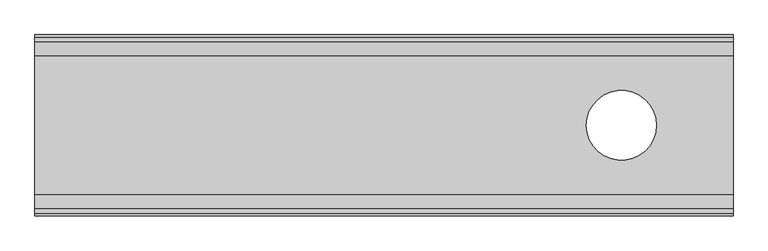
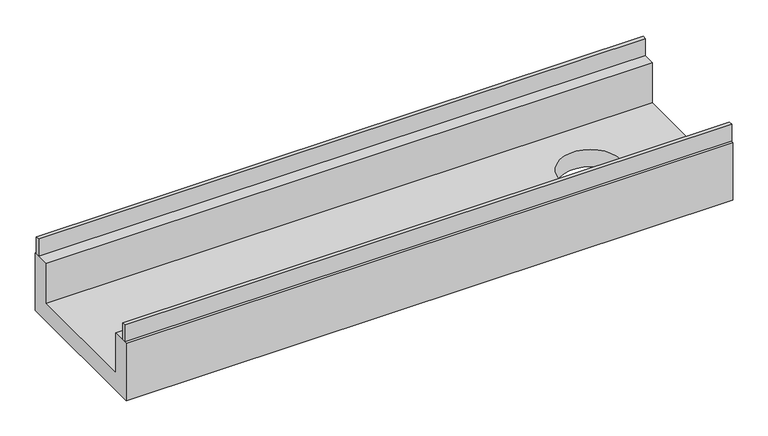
"""IFC4 building model written with IfcOpenShell, lengths in millimetres: sanitary terminal geometry, PF_ST_Slabdrain_H200K & H200KS_channels_USA_ACO : H200K-13 Constant Depth Channel with GS edge rail."""

import ifcopenshell
import ifcopenshell.guid

model = None  # the IFC model being written
_history = None  # IfcOwnerHistory: only IFC2X3 demands one
_inside = {}  # id of a spatial element -> (the spatial element, [elements in it])
_under = {}  # id of a project, library or spatial element -> (it, [spatial elements below it])
_declared = {}  # id of a project -> (the project, [libraries it declares])
_typed = {}  # id of a type object -> (the type object, [elements of that type])
_made_of = {}  # id of a material, layer set ... -> (it, [elements and type objects made of it])


def new_model(schema):
    """Start an empty IFC model of exactly this schema.

    Asked for "IFC4X3", IfcOpenShell would pick the latest addendum, in which some entities
    have other attributes; the version numbers below select the first issue.
    IFC2X3 requires an IfcOwnerHistory on every rooted entity: one is made here for all.
    """
    global model, _history
    if schema == "IFC4X3":
        model = ifcopenshell.file(schema_version=(4, 3, 0, 0))
    else:
        model = ifcopenshell.file(schema=schema)
    _inside.clear()
    _under.clear()
    _declared.clear()
    _typed.clear()
    _made_of.clear()
    _history = None
    if model.schema == "IFC2X3":
        org = make("IfcOrganization", Name="unknown")
        user = make(
            "IfcPersonAndOrganization",
            ThePerson=make("IfcPerson", FamilyName="unknown"),
            TheOrganization=org,
        )
        app = make(
            "IfcApplication",
            ApplicationDeveloper=org,
            Version="unknown",
            ApplicationFullName="unknown",
            ApplicationIdentifier="unknown",
        )
        _history = make(
            "IfcOwnerHistory",
            OwningUser=user,
            OwningApplication=app,
            ChangeAction="ADDED",
            CreationDate=0,
        )
    return model


def make(cls, **values):
    """One entity of the class cls with the attributes given. An attribute that is None is left unset."""
    return model.create_entity(
        cls, **{name: value for name, value in values.items() if value is not None}
    )


def rooted(cls, **values):
    """An entity with a GlobalId (a new one), such as an element, a storey or a relation."""
    return make(cls, GlobalId=ifcopenshell.guid.new(), OwnerHistory=_history, **values)


def si_unit(unit_type, name, prefix=None):
    """IfcSIUnit, for example si_unit("LENGTHUNIT", "METRE", prefix="MILLI")."""
    return make("IfcSIUnit", UnitType=unit_type, Prefix=prefix, Name=name)


def assignment(units):
    """IfcUnitAssignment: the units of a project."""
    return None if units is None else make("IfcUnitAssignment", Units=units)


def point(xyz):
    """IfcCartesianPoint."""
    return None if xyz is None else make("IfcCartesianPoint", Coordinates=xyz)


def direction(xyz):
    """IfcDirection."""
    return None if xyz is None else make("IfcDirection", DirectionRatios=xyz)


def frame(location, z_axis=None, x_axis=None):
    """IfcAxis2Placement3D, a coordinate frame: its origin and axes. An axis left out is left unset."""
    return make(
        "IfcAxis2Placement3D",
        Location=point(location),
        Axis=direction(z_axis),
        RefDirection=direction(x_axis),
    )


def origin():
    """The frame at (0, 0, 0) with its axes left unset."""
    return frame((0.0, 0.0, 0.0))


def place(relative_to, where):
    """IfcLocalPlacement: puts the frame where relative to a parent placement (None: the world)."""
    return make(
        "IfcLocalPlacement", PlacementRelTo=relative_to, RelativePlacement=where
    )


def context(
    kind, dimensions, precision=None, world=None, true_north=None, identifier=None
):
    """IfcGeometricRepresentationContext, for example the 3D "Model" context."""
    return make(
        "IfcGeometricRepresentationContext",
        ContextIdentifier=identifier,
        ContextType=kind,
        CoordinateSpaceDimension=dimensions,
        Precision=precision,
        WorldCoordinateSystem=world,
        TrueNorth=true_north,
    )


def project(units=None, contexts=None):
    """IfcProject with its units and contexts."""
    return rooted(
        "IfcProject",
        Name="project",
        RepresentationContexts=contexts,
        UnitsInContext=assignment(units),
    )


def spatial(cls, under=None, at=None, **own):
    """A site, building, storey or space (cls), placed at a placement, below another one or the project."""
    s = rooted(cls, ObjectPlacement=at, **own)
    if under is not None:
        _under.setdefault(under.id(), (under, []))[1].append(s)
    return s


def polyline(points):
    """IfcPolyline through the points."""
    return make("IfcPolyline", Points=[point(p) for p in points])


def circle_curve(where, radius):
    """IfcCircle in the frame where."""
    return make("IfcCircle", Position=where, Radius=radius)


def outline(outer, holes=None, kind="AREA"):
    """IfcArbitraryClosedProfileDef: a profile drawn as a closed curve; with holes, ...WithVoids."""
    if holes is None:
        return make("IfcArbitraryClosedProfileDef", ProfileType=kind, OuterCurve=outer)
    return make(
        "IfcArbitraryProfileDefWithVoids",
        ProfileType=kind,
        OuterCurve=outer,
        InnerCurves=holes,
    )


def extrude(swept, where, along, depth):
    """IfcExtrudedAreaSolid: the profile swept, set in the frame where, extruded along a direction by depth."""
    return make(
        "IfcExtrudedAreaSolid",
        SweptArea=swept,
        Position=where,
        ExtrudedDirection=direction(along),
        Depth=depth,
    )


def shape(context_of_items, identifier, shape_type, items):
    """IfcShapeRepresentation: the items that make up one representation, for example the "Body"."""
    return make(
        "IfcShapeRepresentation",
        ContextOfItems=context_of_items,
        RepresentationIdentifier=identifier,
        RepresentationType=shape_type,
        Items=items,
    )


def source(mapping_origin, context_of_items, identifier, shape_type, items):
    """IfcRepresentationMap: a shape defined once, which mapped items show again and again."""
    return make(
        "IfcRepresentationMap",
        MappingOrigin=mapping_origin,
        MappedRepresentation=shape(context_of_items, identifier, shape_type, items),
    )


def transform(
    local_origin,
    x_axis=None,
    y_axis=None,
    z_axis=None,
    scale=None,
    scale2=None,
    scale3=None,
    uniform=True,
):
    """IfcCartesianTransformationOperator3D, or its non-uniform kind. x_axis, y_axis, z_axis: its Axis1, 2, 3."""
    if uniform:
        return make(
            "IfcCartesianTransformationOperator3D",
            Axis1=direction(x_axis),
            Axis2=direction(y_axis),
            LocalOrigin=point(local_origin),
            Scale=scale,
            Axis3=direction(z_axis),
        )
    return make(
        "IfcCartesianTransformationOperator3DnonUniform",
        Axis1=direction(x_axis),
        Axis2=direction(y_axis),
        LocalOrigin=point(local_origin),
        Scale=scale,
        Axis3=direction(z_axis),
        Scale2=scale2,
        Scale3=scale3,
    )


def mapped(mapping_source, mapping_target):
    """IfcMappedItem: shows the shape of a source again, moved by a transform."""
    return make(
        "IfcMappedItem", MappingSource=mapping_source, MappingTarget=mapping_target
    )


def made_of(thing, what):
    """Note that an element or type object is made of a material, layer set ...; save() writes the relation."""
    if what is not None:
        _made_of.setdefault(what.id(), (what, []))[1].append(thing)
    return thing


def element(
    cls,
    number,
    at=None,
    inside=None,
    cuts=None,
    type_object=None,
    material=None,
    context=None,
    identifier="Body",
    shape_type=None,
    held_by="IfcProductDefinitionShape",
    body=None,
    shapes=None,
    **own,
):
    """One element of the class cls, such as IfcWall. Its Tag is "e" and its number.

    at: its placement. inside: the storey or other place that contains it. cuts: it is an
    opening in that element (IfcRelVoidsElement). A single representation is given by context,
    identifier, shape_type and body (its items); several are given by shapes. held_by: the class
    of the entity that holds the representations. save() writes the other relations.
    """
    e = rooted(cls, Tag="e%d" % number, ObjectPlacement=at, **own)
    if body is not None:
        shapes = [shape(context, identifier, shape_type, body)]
    if shapes is not None:
        e.Representation = make(held_by, Representations=shapes)
    if inside is not None:
        _inside.setdefault(inside.id(), (inside, []))[1].append(e)
    if cuts is not None:
        rooted(
            "IfcRelVoidsElement", RelatingBuildingElement=cuts, RelatedOpeningElement=e
        )
    if type_object is not None:
        _typed.setdefault(type_object.id(), (type_object, []))[1].append(e)
    return made_of(e, material)


def aggregate(whole, parts):
    """IfcRelAggregates: a whole, such as a stair, and the parts it consists of."""
    return rooted("IfcRelAggregates", RelatingObject=whole, RelatedObjects=parts)


def save(model, path):
    """Write the relations noted so far, then the file.

    IfcRelAggregates (storeys below a building ...), IfcRelContainedInSpatialStructure (elements
    in a storey), IfcRelDefinesByType, IfcRelAssociatesMaterial and IfcRelDeclares: one each for
    every whole, place, type object, material and project.
    """
    for whole, parts in _under.values():
        aggregate(whole, parts)
    for where, things in _inside.values():
        rooted(
            "IfcRelContainedInSpatialStructure",
            RelatedElements=things,
            RelatingStructure=where,
        )
    for kind, things in _typed.values():
        rooted("IfcRelDefinesByType", RelatedObjects=things, RelatingType=kind)
    for what, things in _made_of.values():
        rooted("IfcRelAssociatesMaterial", RelatedObjects=things, RelatingMaterial=what)
    for by, libraries in _declared.values():
        rooted("IfcRelDeclares", RelatingContext=by, RelatedDefinitions=libraries)
    model.write(path)


def plane_surface(at):
    """IfcPlane: the flat surface through the origin of the frame at, square to its z axis."""
    return make("IfcPlane", Position=at)


def revolved_surface(curve, axis_point, axis_direction):
    """IfcSurfaceOfRevolution: the curve turned about the line through axis_point along axis_direction."""
    return make(
        "IfcSurfaceOfRevolution",
        SweptCurve=make("IfcArbitraryOpenProfileDef", ProfileType="CURVE", Curve=curve),
        AxisPosition=make("IfcAxis1Placement", Location=point(axis_point), Axis=direction(axis_direction)),
    )


def advanced_brep(points, edges, surfaces, faces):
    """IfcAdvancedBrep: a solid bounded by faces that lie on surfaces and meet in shared edges.

    An edge is (start, end): straight between two places in points (the first is 0);
    or (start, end, curve); or (start, end, curve, False) where it runs against its curve.
    A face is (place in surfaces, loops), or (place, loops, False) where it looks against
    its surface's normal. A loop lists edges by number (the first is 1), with a minus sign
    where the edge is run from its end to its start. The first loop is the outer one.
    """
    corners = [point(p) for p in points]
    vertices = [make("IfcVertexPoint", VertexGeometry=c) for c in corners]
    made = []
    for start, end, *more in edges:
        made.append(
            make(
                "IfcEdgeCurve",
                EdgeStart=vertices[start],
                EdgeEnd=vertices[end],
                EdgeGeometry=more[0] if more else make("IfcPolyline", Points=[corners[start], corners[end]]),
                SameSense=more[1] if len(more) > 1 else True,
            )
        )
    hull = []
    for where, loops, *sense in faces:
        bounds = []
        for j, loop in enumerate(loops):
            ring = [make("IfcOrientedEdge", EdgeElement=made[abs(k) - 1], Orientation=k > 0) for k in loop]
            bounds.append(
                make(
                    "IfcFaceOuterBound" if j == 0 else "IfcFaceBound",
                    Bound=make("IfcEdgeLoop", EdgeList=ring),
                    Orientation=True,
                )
            )
        hull.append(make("IfcAdvancedFace", Bounds=bounds, FaceSurface=surfaces[where], SameSense=sense[0] if sense else True))
    return make("IfcAdvancedBrep", Outer=make("IfcClosedShell", CfsFaces=hull))


def sanitary_terminal_28b78da5(model_context):
    return source(origin(), model_context, "Body", "SolidModel", [
        advanced_brep(
        [(-605.6176554, 130.0, -30.0), (-605.6176554, 100.0, -30.0), (-605.6176554, 100.0, -100.0), (-605.6176554, -100.0, -100.0), (-605.6176554, -100.0, -30.0), (-605.6176554, -130.0, -30.0), (-605.6176554, -130.0, -130.0), (-605.6176554, 130.0, -130.0), (-1605.6176554, 130.0, -30.0), (-1605.6176554, 130.0, -130.0), (-1605.6176554, -130.0, -130.0), (-1605.6176554, -130.0, -30.0), (-1605.6176554, -100.0, -30.0), (-1605.6176554, -100.0, -100.0), (-1605.6176554, 100.0, -100.0), (-1605.6176554, 100.0, -30.0), (-815.6176554, 0.0, -130.0), (-715.6176554, 0.0, -130.0), (-715.6176554, 0.0, -100.0), (-815.6176554, 0.0, -100.0)],
        [
            (0, 1),
            (1, 2),
            (2, 3),
            (3, 4),
            (4, 5),
            (5, 6),
            (6, 7),
            (7, 0),
            (8, 9),
            (9, 10),
            (10, 11),
            (11, 12),
            (12, 13),
            (13, 14),
            (14, 15),
            (15, 8),
            (0, 8),
            (15, 1),
            (4, 12),
            (11, 5),
            (10, 6),
            (9, 7),
            (16, 17, circle_curve(frame((-765.6176554, 0.0, -130.0), z_axis=(0.0, 0.0, 1.0), x_axis=(1.0, 0.0, 0.0)), 50.0)),
            (17, 16, circle_curve(frame((-765.6176554, 0.0, -130.0), z_axis=(0.0, 0.0, 1.0), x_axis=(1.0, 0.0, 0.0)), 50.0)),
            (14, 2),
            (13, 3),
            (18, 19, circle_curve(frame((-765.6176554, 0.0, -100.0), z_axis=(0.0, 0.0, -1.0), x_axis=(1.0, 0.0, 0.0)), 50.0)),
            (19, 18, circle_curve(frame((-765.6176554, 0.0, -100.0), z_axis=(0.0, 0.0, -1.0), x_axis=(1.0, 0.0, 0.0)), 50.0)),
            (18, 17),
            (16, 19),
        ],
        [
            plane_surface(frame((-605.6176554, 0.0, -72.5), z_axis=(1.0, 0.0, 0.0), x_axis=(0.0, -1.0, 0.0))),
            plane_surface(frame((-1605.6176554, 0.0, -72.5), z_axis=(-1.0, 0.0, 0.0), x_axis=(0.0, -1.0, 0.0))),
            plane_surface(frame((-1605.6176554, 115.0, -30.0), z_axis=(0.0, 0.0, 1.0), x_axis=(0.0, -1.0, 0.0))),
            plane_surface(frame((-1605.6176554, -115.0, -30.0), z_axis=(0.0, 0.0, 1.0), x_axis=(0.0, -1.0, 0.0))),
            plane_surface(frame((-1605.6176554, -130.0, -80.0), z_axis=(0.0, -1.0, 0.0), x_axis=(0.0, 0.0, -1.0))),
            plane_surface(frame((-1605.6176554, 0.0, -130.0), z_axis=(0.0, 0.0, -1.0), x_axis=(0.0, 1.0, 0.0))),
            plane_surface(frame((-1605.6176554, 130.0, -80.0), z_axis=(0.0, 1.0, 0.0), x_axis=(0.0, 0.0, 1.0))),
            plane_surface(frame((-1605.6176554, 100.0, -65.0), z_axis=(0.0, -1.0, 0.0), x_axis=(0.0, 0.0, -1.0))),
            plane_surface(frame((-1605.6176554, 0.0, -100.0), z_axis=(0.0, 0.0, 1.0), x_axis=(0.0, -1.0, 0.0))),
            plane_surface(frame((-1605.6176554, -100.0, -65.0), z_axis=(0.0, 1.0, 0.0), x_axis=(0.0, 0.0, 1.0))),
            revolved_surface(polyline([(-715.6176554, 0.0, -130.0), (-715.6176554, 0.0, -100.0)]), (-765.6176554, 0.0, 0.0), (0.0, 0.0, -1.0)),
        ],
        [
            (0, [[1, 2, 3, 4, 5, 6, 7, 8]]),
            (1, [[9, 10, 11, 12, 13, 14, 15, 16]]),
            (2, [[-1, 17, -16, 18]]),
            (3, [[-5, 19, -12, 20]]),
            (4, [[-6, -20, -11, 21]]),
            (5, [[-7, -21, -10, 22], [23, 24]]),
            (6, [[-8, -22, -9, -17]]),
            (7, [[-2, -18, -15, 25]]),
            (8, [[-3, -25, -14, 26], [27, 28]]),
            (9, [[-4, -26, -13, -19]]),
            (10, [[29, -23, 30, -27]]),
            (10, [[-29, -28, -30, -24]]),
        ],
    ),
        extrude(outline(polyline([(-605.6176554, 126.0), (-605.6176554, 120.0), (-1605.6176554, 120.0), (-1605.6176554, 126.0), (-605.6176554, 126.0)])), frame((0.0, 0.0, -30.0), z_axis=(0.0, 0.0, 1.0), x_axis=(1.0, 0.0, 0.0)), (0.0, 0.0, 1.0), 30.0),
        extrude(outline(polyline([(-605.6176554, -120.0), (-605.6176554, -126.0), (-1605.6176554, -126.0), (-1605.6176554, -120.0), (-605.6176554, -120.0)])), frame((0.0, 0.0, -30.0), z_axis=(0.0, 0.0, 1.0), x_axis=(1.0, 0.0, 0.0)), (0.0, 0.0, 1.0), 30.0),
    ])


if __name__ == "__main__":
    model = new_model("IFC4")
    model_context = context("Model", 3, world=origin())
    ifc_project = project(units=[si_unit("LENGTHUNIT", "METRE", prefix="MILLI")], contexts=[model_context])
    site = spatial("IfcSite", under=ifc_project)
    building = spatial("IfcBuilding", under=site)
    placement = place(None, origin())
    sanitary_terminal_shape = sanitary_terminal_28b78da5(model_context)
    element("IfcSanitaryTerminal", 1, ObjectType="PF_ST_Slabdrain_H200K & H200KS_channels_USA_ACO : H200K-13 Constant Depth Channel with GS edge rail", at=placement, inside=building, context=model_context, shape_type="MappedRepresentation", body=[
        mapped(sanitary_terminal_shape, transform((0.0, 0.0, 0.0), x_axis=(1.0, 0.0, 0.0), y_axis=(0.0, 1.0, 0.0), z_axis=(0.0, 0.0, 1.0))),
    ])
    save(model, "model.ifc")
